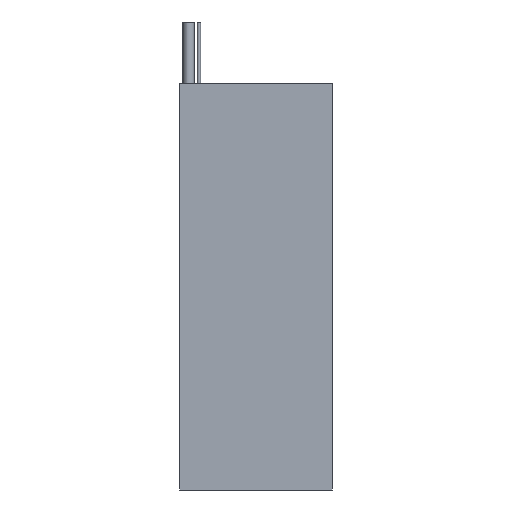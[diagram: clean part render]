
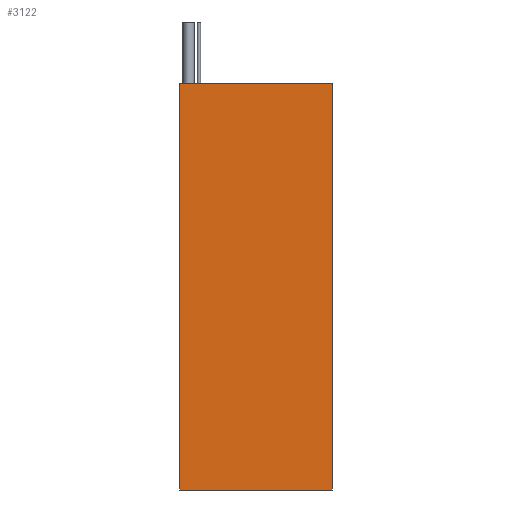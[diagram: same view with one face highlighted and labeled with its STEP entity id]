
A CAD part, front view. The second image highlights one B-rep face of the part: STEP entity #3122.
In plain terms, the highlighted planar face has unit normal (0, -1, 0).
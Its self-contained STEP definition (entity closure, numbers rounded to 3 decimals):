
#17 = DIRECTION ( 'NONE',  ( 0., 0., -1. ) ) ;
#77 = FACE_OUTER_BOUND ( 'NONE', #1188, .T. ) ;
#345 = CARTESIAN_POINT ( 'NONE',  ( -453.861, 525.584, -328. ) ) ;
#436 = ORIENTED_EDGE ( 'NONE', *, *, #2585, .T. ) ;
#770 = CARTESIAN_POINT ( 'NONE',  ( -330.361, 525.584, -328. ) ) ;
#866 = ORIENTED_EDGE ( 'NONE', *, *, #2565, .T. ) ;
#977 = EDGE_CURVE ( 'NONE', #1123, #1799, #1779, .T. ) ;
#1123 = VERTEX_POINT ( 'NONE', #1305 ) ;
#1145 = LINE ( 'NONE', #2430, #3169 ) ;
#1188 = EDGE_LOOP ( 'NONE', ( #1896, #2235, #866, #436 ) ) ;
#1305 = CARTESIAN_POINT ( 'NONE',  ( -453.861, 525.584, 0. ) ) ;
#1645 = CARTESIAN_POINT ( 'NONE',  ( -453.861, 525.584, 0. ) ) ;
#1656 = DIRECTION ( 'NONE',  ( 0., -1., 0. ) ) ;
#1675 = VERTEX_POINT ( 'NONE', #770 ) ;
#1767 = AXIS2_PLACEMENT_3D ( 'NONE', #3287, #1656, #17 ) ;
#1779 = LINE ( 'NONE', #1645, #2161 ) ;
#1799 = VERTEX_POINT ( 'NONE', #2078 ) ;
#1875 = LINE ( 'NONE', #2051, #3235 ) ;
#1896 = ORIENTED_EDGE ( 'NONE', *, *, #977, .F. ) ;
#1957 = LINE ( 'NONE', #2593, #3324 ) ;
#2051 = CARTESIAN_POINT ( 'NONE',  ( -330.361, 525.584, -328. ) ) ;
#2078 = CARTESIAN_POINT ( 'NONE',  ( -330.361, 525.584, 0. ) ) ;
#2161 = VECTOR ( 'NONE', #2749, 1000. ) ;
#2189 = PLANE ( 'NONE',  #1767 ) ;
#2235 = ORIENTED_EDGE ( 'NONE', *, *, #3544, .F. ) ;
#2430 = CARTESIAN_POINT ( 'NONE',  ( -453.861, 525.584, -328. ) ) ;
#2565 = EDGE_CURVE ( 'NONE', #3095, #1675, #1957, .T. ) ;
#2585 = EDGE_CURVE ( 'NONE', #1675, #1799, #1875, .T. ) ;
#2593 = CARTESIAN_POINT ( 'NONE',  ( -453.861, 525.584, -328. ) ) ;
#2601 = DIRECTION ( 'NONE',  ( 0., 0., 1. ) ) ;
#2696 = DIRECTION ( 'NONE',  ( 0., 0., 1. ) ) ;
#2749 = DIRECTION ( 'NONE',  ( 1., 0., 0. ) ) ;
#2863 = DIRECTION ( 'NONE',  ( 1., 0., 0. ) ) ;
#3095 = VERTEX_POINT ( 'NONE', #345 ) ;
#3122 = ADVANCED_FACE ( 'NONE', ( #77 ), #2189, .T. ) ;
#3169 = VECTOR ( 'NONE', #2696, 1000. ) ;
#3235 = VECTOR ( 'NONE', #2601, 1000. ) ;
#3287 = CARTESIAN_POINT ( 'NONE',  ( -453.861, 525.584, -328. ) ) ;
#3324 = VECTOR ( 'NONE', #2863, 1000. ) ;
#3544 = EDGE_CURVE ( 'NONE', #3095, #1123, #1145, .T. ) ;
